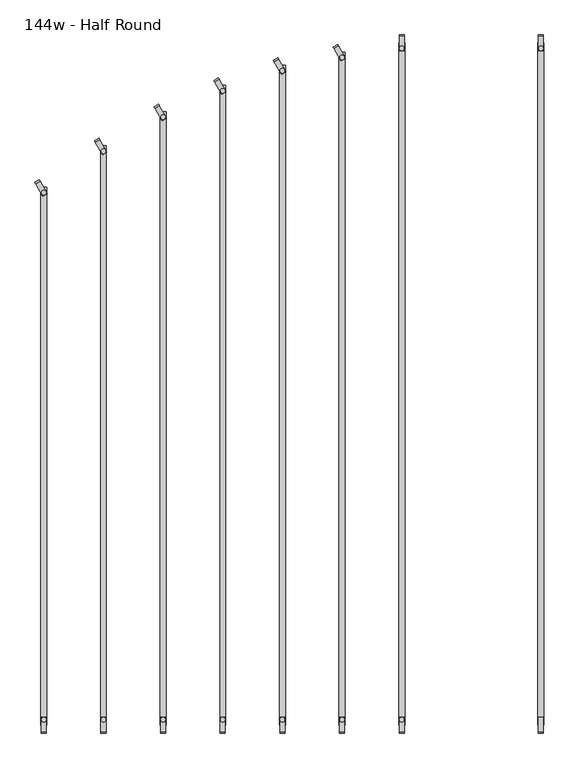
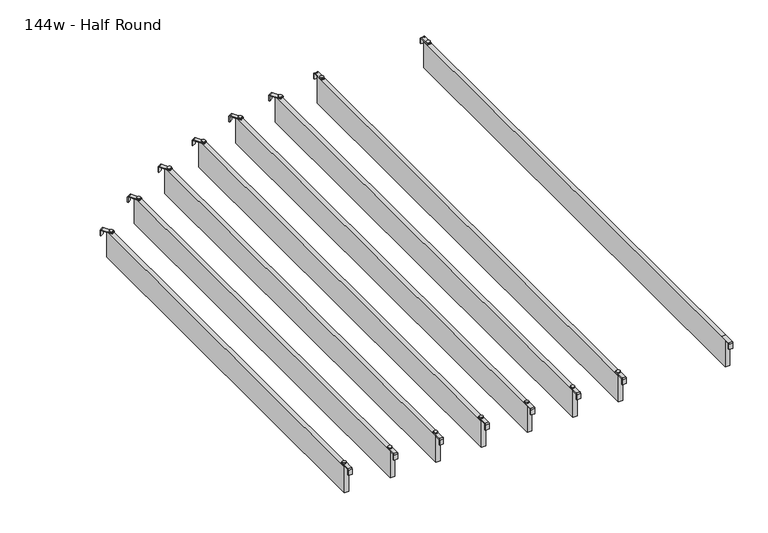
"""IFC4 building model written with IfcOpenShell, lengths in millimetres: furniture geometry, Haworth_Pergola_Ceiling_Slat_Radial : 144w - Half Round."""

from ifc_helpers import new_model, si_unit, point, frame, frame_2d, origin, place, context, project, spatial, polyline, circle_curve, trimmed, segment, composite_curve, outline, extrude, source, transform, mapped, element, save


def furniture_144w_half_round_812f437a(model_context):
    return source(origin(), model_context, "Body", "SweptSolid", [
        extrude(outline(composite_curve([segment(trimmed(circle_curve(frame_2d((215.9, -505.3424)), 5.9838099), [point((215.9, -511.3262099))], [point((215.9, -499.3585901))], False, "CARTESIAN"), True, "CONTINUOUS"), segment(trimmed(circle_curve(frame_2d((215.9, -505.3424)), 5.9838099), [point((215.9, -499.3585901))], [point((215.9, -511.3262099))], False, "CARTESIAN"), True, "CONTINUOUS")], self_intersect=False)), frame((0.0, 0.0, 2440.9329992), z_axis=(0.0, 0.0, 1.0), x_axis=(1.0, 0.0, 0.0)), (0.0, 0.0, 1.0), 3.4400008),
        extrude(outline(composite_curve([segment(polyline([(-2253.0946, 2419.2231711), (-2253.0946, 2437.2499992)]), True, "CONTINUOUS"), segment(trimmed(circle_curve(frame_2d((-2249.4116, 2437.2499992)), 3.683), [point((-2253.0946, 2437.2499992))], [point((-2249.4116, 2440.9329992))], False, "CARTESIAN"), True, "CONTINUOUS"), segment(polyline([(-2249.4116, 2440.9329992), (-2212.4346, 2440.9329992), (-2212.4346, 2438.2729997), (-2249.4251568, 2438.2729997)]), True, "CONTINUOUS"), segment(trimmed(circle_curve(frame_2d((-2249.4251568, 2437.2635571)), 1.0094425), [point((-2249.4251568, 2438.2729997))], [point((-2250.4345993, 2437.2635571))], True, "CARTESIAN"), True, "CONTINUOUS"), segment(polyline([(-2250.4345993, 2437.2635571), (-2250.4345993, 2419.2231711), (-2253.0946, 2419.2231711)]), True, "CONTINUOUS")], self_intersect=False)), frame((209.4069997, 0.0, 0.0), z_axis=(1.0, 0.0, 0.0), x_axis=(0.0, 1.0, 0.0)), (0.0, 0.0, 1.0), 13.0),
        extrude(outline(composite_curve([segment(polyline([(-471.1824, 2419.2231711), (-473.8424007, 2419.2231711), (-473.8424007, 2437.2635571)]), True, "CONTINUOUS"), segment(trimmed(circle_curve(frame_2d((-474.8518432, 2437.2635571)), 1.0094425), [point((-473.8424007, 2437.2635571))], [point((-474.8518432, 2438.2729997))], True, "CARTESIAN"), True, "CONTINUOUS"), segment(polyline([(-474.8518432, 2438.2729997), (-511.8424, 2438.2729997), (-511.8424, 2440.9329992), (-474.8654, 2440.9329992)]), True, "CONTINUOUS"), segment(trimmed(circle_curve(frame_2d((-474.8654, 2437.2499992)), 3.683), [point((-474.8654, 2440.9329992))], [point((-471.1824, 2437.2499992))], False, "CARTESIAN"), True, "CONTINUOUS"), segment(polyline([(-471.1824, 2437.2499992), (-471.1824, 2419.2231711)]), True, "CONTINUOUS")], self_intersect=False)), frame((209.4069997, 0.0, 0.0), z_axis=(1.0, 0.0, 0.0), x_axis=(0.0, 1.0, 0.0)), (0.0, 0.0, 1.0), 13.0),
        extrude(outline(polyline([(208.407, -491.6424), (223.393, -491.6424), (223.393, -2232.6346), (208.407, -2232.6346), (208.407, -491.6424)])), frame((0.0, 0.0, 2346.198), z_axis=(0.0, 0.0, 1.0), x_axis=(1.0, 0.0, 0.0)), (0.0, 0.0, 1.0), 92.202),
        extrude(outline(composite_curve([segment(trimmed(circle_curve(frame_2d((-139.7, -2218.9346)), 5.9838099), [point((-139.7, -2212.9507901))], [point((-139.7, -2224.9184099))], False, "CARTESIAN"), True, "CONTINUOUS"), segment(trimmed(circle_curve(frame_2d((-139.7, -2218.9346)), 5.9838099), [point((-139.7, -2224.9184099))], [point((-139.7, -2212.9507901))], False, "CARTESIAN"), True, "CONTINUOUS")], self_intersect=False)), frame((0.0, 0.0, 2440.9329992), z_axis=(0.0, 0.0, 1.0), x_axis=(1.0, 0.0, 0.0)), (0.0, 0.0, 1.0), 3.4400008),
        extrude(outline(composite_curve([segment(trimmed(circle_curve(frame_2d((-139.7, -505.3424)), 5.9838099), [point((-139.7, -511.3262099))], [point((-139.7, -499.3585901))], False, "CARTESIAN"), True, "CONTINUOUS"), segment(trimmed(circle_curve(frame_2d((-139.7, -505.3424)), 5.9838099), [point((-139.7, -499.3585901))], [point((-139.7, -511.3262099))], False, "CARTESIAN"), True, "CONTINUOUS")], self_intersect=False)), frame((0.0, 0.0, 2440.9329992), z_axis=(0.0, 0.0, 1.0), x_axis=(1.0, 0.0, 0.0)), (0.0, 0.0, 1.0), 3.4400008),
        extrude(outline(composite_curve([segment(polyline([(-2253.0946, 2419.2231711), (-2253.0946, 2437.2499992)]), True, "CONTINUOUS"), segment(trimmed(circle_curve(frame_2d((-2249.4116, 2437.2499992)), 3.683), [point((-2253.0946, 2437.2499992))], [point((-2249.4116, 2440.9329992))], False, "CARTESIAN"), True, "CONTINUOUS"), segment(polyline([(-2249.4116, 2440.9329992), (-2212.4346, 2440.9329992), (-2212.4346, 2438.2729997), (-2249.4251568, 2438.2729997)]), True, "CONTINUOUS"), segment(trimmed(circle_curve(frame_2d((-2249.4251568, 2437.2635571)), 1.0094425), [point((-2249.4251568, 2438.2729997))], [point((-2250.4345993, 2437.2635571))], True, "CARTESIAN"), True, "CONTINUOUS"), segment(polyline([(-2250.4345993, 2437.2635571), (-2250.4345993, 2419.2231711), (-2253.0946, 2419.2231711)]), True, "CONTINUOUS")], self_intersect=False)), frame((-146.1930003, 0.0, 0.0), z_axis=(1.0, 0.0, 0.0), x_axis=(0.0, 1.0, 0.0)), (0.0, 0.0, 1.0), 13.0),
        extrude(outline(composite_curve([segment(polyline([(-471.1824, 2419.2231711), (-473.8424007, 2419.2231711), (-473.8424007, 2437.2635571)]), True, "CONTINUOUS"), segment(trimmed(circle_curve(frame_2d((-474.8518432, 2437.2635571)), 1.0094425), [point((-473.8424007, 2437.2635571))], [point((-474.8518432, 2438.2729997))], True, "CARTESIAN"), True, "CONTINUOUS"), segment(polyline([(-474.8518432, 2438.2729997), (-511.8424, 2438.2729997), (-511.8424, 2440.9329992), (-474.8654, 2440.9329992)]), True, "CONTINUOUS"), segment(trimmed(circle_curve(frame_2d((-474.8654, 2437.2499992)), 3.683), [point((-474.8654, 2440.9329992))], [point((-471.1824, 2437.2499992))], False, "CARTESIAN"), True, "CONTINUOUS"), segment(polyline([(-471.1824, 2437.2499992), (-471.1824, 2419.2231711)]), True, "CONTINUOUS")], self_intersect=False)), frame((-146.1930003, 0.0, 0.0), z_axis=(1.0, 0.0, 0.0), x_axis=(0.0, 1.0, 0.0)), (0.0, 0.0, 1.0), 13.0),
        extrude(outline(polyline([(-147.193, -491.6424), (-132.207, -491.6424), (-132.207, -2232.6346), (-147.193, -2232.6346), (-147.193, -491.6424)])), frame((0.0, 0.0, 2346.198), z_axis=(0.0, 0.0, 1.0), x_axis=(1.0, 0.0, 0.0)), (0.0, 0.0, 1.0), 92.202),
        extrude(outline(composite_curve([segment(trimmed(circle_curve(frame_2d((-1.0160034, 0.0159996)), 1.016), [point((-1.0160034, -1.0000004))], [point((-3.4e-06, 0.0159996))], True, "CARTESIAN"), True, "CONTINUOUS"), segment(polyline([(-3.4e-06, 0.0159996), (-3.4e-06, 36.7785168), (2.5329992, 36.7785168), (2.5329992, 0.022999)]), True, "CONTINUOUS"), segment(trimmed(circle_curve(frame_2d((-1.1500008, 0.022999)), 3.683), [point((2.5329992, 0.022999))], [point((-1.1500008, -3.660001))], False, "CARTESIAN"), True, "CONTINUOUS"), segment(polyline([(-1.1500008, -3.660001), (-19.0498319, -3.660001), (-19.0498319, -1.0000004), (-1.0160034, -1.0000004)]), True, "CONTINUOUS")], self_intersect=False)), frame((-312.9791648, -505.5720262, 2438.4), z_axis=(0.8660254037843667, 0.5000000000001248, 0.0), x_axis=(0.0, 0.0, 1.0)), (0.0, 0.0, 1.0), 13.0000002),
        extrude(outline(composite_curve([segment(trimmed(circle_curve(frame_2d((-292.1, -2218.9346)), 5.9838099), [point((-292.1, -2212.9507901))], [point((-292.1, -2224.9184099))], False, "CARTESIAN"), True, "CONTINUOUS"), segment(trimmed(circle_curve(frame_2d((-292.1, -2218.9346)), 5.9838099), [point((-292.1, -2224.9184099))], [point((-292.1, -2212.9507901))], False, "CARTESIAN"), True, "CONTINUOUS")], self_intersect=False)), frame((0.0, 0.0, 2440.9329992), z_axis=(0.0, 0.0, 1.0), x_axis=(1.0, 0.0, 0.0)), (0.0, 0.0, 1.0), 3.4400008),
        extrude(outline(composite_curve([segment(trimmed(circle_curve(frame_2d((-292.1, -528.7358)), 5.9838099), [point((-292.1, -534.7196099))], [point((-292.1, -522.7519901))], False, "CARTESIAN"), True, "CONTINUOUS"), segment(trimmed(circle_curve(frame_2d((-292.1, -528.7358)), 5.9838099), [point((-292.1, -522.7519901))], [point((-292.1, -534.7196099))], False, "CARTESIAN"), True, "CONTINUOUS")], self_intersect=False)), frame((0.0, 0.0, 2440.9329992), z_axis=(0.0, 0.0, 1.0), x_axis=(1.0, 0.0, 0.0)), (0.0, 0.0, 1.0), 3.4400008),
        extrude(outline(composite_curve([segment(polyline([(-2253.0946, 2419.2231711), (-2253.0946, 2437.2499992)]), True, "CONTINUOUS"), segment(trimmed(circle_curve(frame_2d((-2249.4116, 2437.2499992)), 3.683), [point((-2253.0946, 2437.2499992))], [point((-2249.4116, 2440.9329992))], False, "CARTESIAN"), True, "CONTINUOUS"), segment(polyline([(-2249.4116, 2440.9329992), (-2212.4346, 2440.9329992), (-2212.4346, 2438.2729997), (-2249.4251568, 2438.2729997)]), True, "CONTINUOUS"), segment(trimmed(circle_curve(frame_2d((-2249.4251568, 2437.2635571)), 1.0094425), [point((-2249.4251568, 2438.2729997))], [point((-2250.4345993, 2437.2635571))], True, "CARTESIAN"), True, "CONTINUOUS"), segment(polyline([(-2250.4345993, 2437.2635571), (-2250.4345993, 2419.2231711), (-2253.0946, 2419.2231711)]), True, "CONTINUOUS")], self_intersect=False)), frame((-298.5930003, 0.0, 0.0), z_axis=(1.0, 0.0, 0.0), x_axis=(0.0, 1.0, 0.0)), (0.0, 0.0, 1.0), 13.0),
        extrude(outline(polyline([(-299.593, -515.0358), (-284.607, -515.0358), (-284.607, -2232.6346), (-299.593, -2232.6346), (-299.593, -515.0358)])), frame((0.0, 0.0, 2346.198), z_axis=(0.0, 0.0, 1.0), x_axis=(1.0, 0.0, 0.0)), (0.0, 0.0, 1.0), 92.202),
        extrude(outline(composite_curve([segment(trimmed(circle_curve(frame_2d((-1.0160034, 0.0159996)), 1.016), [point((-1.0160034, -1.0000004))], [point((-3.4e-06, 0.0159996))], True, "CARTESIAN"), True, "CONTINUOUS"), segment(polyline([(-3.4e-06, 0.0159996), (-3.4e-06, 36.7785168), (2.5329992, 36.7785168), (2.5329992, 0.022999)]), True, "CONTINUOUS"), segment(trimmed(circle_curve(frame_2d((-1.1500008, 0.022999)), 3.683), [point((2.5329992, 0.022999))], [point((-1.1500008, -3.660001))], False, "CARTESIAN"), True, "CONTINUOUS"), segment(polyline([(-1.1500008, -3.660001), (-19.0498319, -3.660001), (-19.0498319, -1.0000004), (-1.0160034, -1.0000004)]), True, "CONTINUOUS")], self_intersect=False)), frame((-465.3791648, -539.4048262, 2438.4), z_axis=(0.8660254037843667, 0.5000000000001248, 0.0), x_axis=(0.0, 0.0, 1.0)), (0.0, 0.0, 1.0), 13.0000002),
        extrude(outline(composite_curve([segment(trimmed(circle_curve(frame_2d((-444.5, -2218.9346)), 5.9838099), [point((-444.5, -2212.9507901))], [point((-444.5, -2224.9184099))], False, "CARTESIAN"), True, "CONTINUOUS"), segment(trimmed(circle_curve(frame_2d((-444.5, -2218.9346)), 5.9838099), [point((-444.5, -2224.9184099))], [point((-444.5, -2212.9507901))], False, "CARTESIAN"), True, "CONTINUOUS")], self_intersect=False)), frame((0.0, 0.0, 2440.9329992), z_axis=(0.0, 0.0, 1.0), x_axis=(1.0, 0.0, 0.0)), (0.0, 0.0, 1.0), 3.4400008),
        extrude(outline(composite_curve([segment(trimmed(circle_curve(frame_2d((-444.5, -562.5686)), 5.9838099), [point((-444.5, -568.5524099))], [point((-444.5, -556.5847901))], False, "CARTESIAN"), True, "CONTINUOUS"), segment(trimmed(circle_curve(frame_2d((-444.5, -562.5686)), 5.9838099), [point((-444.5, -556.5847901))], [point((-444.5, -568.5524099))], False, "CARTESIAN"), True, "CONTINUOUS")], self_intersect=False)), frame((0.0, 0.0, 2440.9329992), z_axis=(0.0, 0.0, 1.0), x_axis=(1.0, 0.0, 0.0)), (0.0, 0.0, 1.0), 3.4400008),
        extrude(outline(composite_curve([segment(polyline([(-2253.0946, 2419.2231711), (-2253.0946, 2437.2499992)]), True, "CONTINUOUS"), segment(trimmed(circle_curve(frame_2d((-2249.4116, 2437.2499992)), 3.683), [point((-2253.0946, 2437.2499992))], [point((-2249.4116, 2440.9329992))], False, "CARTESIAN"), True, "CONTINUOUS"), segment(polyline([(-2249.4116, 2440.9329992), (-2212.4346, 2440.9329992), (-2212.4346, 2438.2729997), (-2249.4251568, 2438.2729997)]), True, "CONTINUOUS"), segment(trimmed(circle_curve(frame_2d((-2249.4251568, 2437.2635571)), 1.0094425), [point((-2249.4251568, 2438.2729997))], [point((-2250.4345993, 2437.2635571))], True, "CARTESIAN"), True, "CONTINUOUS"), segment(polyline([(-2250.4345993, 2437.2635571), (-2250.4345993, 2419.2231711), (-2253.0946, 2419.2231711)]), True, "CONTINUOUS")], self_intersect=False)), frame((-450.9930003, 0.0, 0.0), z_axis=(1.0, 0.0, 0.0), x_axis=(0.0, 1.0, 0.0)), (0.0, 0.0, 1.0), 13.0),
        extrude(outline(polyline([(-451.993, -548.8686), (-437.007, -548.8686), (-437.007, -2232.6346), (-451.993, -2232.6346), (-451.993, -548.8686)])), frame((0.0, 0.0, 2346.198), z_axis=(0.0, 0.0, 1.0), x_axis=(1.0, 0.0, 0.0)), (0.0, 0.0, 1.0), 92.202),
        extrude(outline(composite_curve([segment(trimmed(circle_curve(frame_2d((-1.0160034, 0.0159996)), 1.016), [point((-1.0160034, -1.0000004))], [point((-3.4e-06, 0.0159996))], True, "CARTESIAN"), True, "CONTINUOUS"), segment(polyline([(-3.4e-06, 0.0159996), (-3.4e-06, 36.7785168), (2.5329992, 36.7785168), (2.5329992, 0.022999)]), True, "CONTINUOUS"), segment(trimmed(circle_curve(frame_2d((-1.1500008, 0.022999)), 3.683), [point((2.5329992, 0.022999))], [point((-1.1500008, -3.660001))], False, "CARTESIAN"), True, "CONTINUOUS"), segment(polyline([(-1.1500008, -3.660001), (-19.0498319, -3.660001), (-19.0498319, -1.0000004), (-1.0160034, -1.0000004)]), True, "CONTINUOUS")], self_intersect=False)), frame((-617.7791648, -590.7890262, 2438.4), z_axis=(0.8660254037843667, 0.5000000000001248, 0.0), x_axis=(0.0, 0.0, 1.0)), (0.0, 0.0, 1.0), 13.0000002),
        extrude(outline(composite_curve([segment(trimmed(circle_curve(frame_2d((-596.9, -2218.9346)), 5.9838099), [point((-596.9, -2212.9507901))], [point((-596.9, -2224.9184099))], False, "CARTESIAN"), True, "CONTINUOUS"), segment(trimmed(circle_curve(frame_2d((-596.9, -2218.9346)), 5.9838099), [point((-596.9, -2224.9184099))], [point((-596.9, -2212.9507901))], False, "CARTESIAN"), True, "CONTINUOUS")], self_intersect=False)), frame((0.0, 0.0, 2440.9329992), z_axis=(0.0, 0.0, 1.0), x_axis=(1.0, 0.0, 0.0)), (0.0, 0.0, 1.0), 3.4400008),
        extrude(outline(composite_curve([segment(trimmed(circle_curve(frame_2d((-596.9, -613.9528)), 5.9838099), [point((-596.9, -619.9366099))], [point((-596.9, -607.9689901))], False, "CARTESIAN"), True, "CONTINUOUS"), segment(trimmed(circle_curve(frame_2d((-596.9, -613.9528)), 5.9838099), [point((-596.9, -607.9689901))], [point((-596.9, -619.9366099))], False, "CARTESIAN"), True, "CONTINUOUS")], self_intersect=False)), frame((0.0, 0.0, 2440.9329992), z_axis=(0.0, 0.0, 1.0), x_axis=(1.0, 0.0, 0.0)), (0.0, 0.0, 1.0), 3.4400008),
        extrude(outline(composite_curve([segment(polyline([(-2253.0946, 2419.2231711), (-2253.0946, 2437.2499992)]), True, "CONTINUOUS"), segment(trimmed(circle_curve(frame_2d((-2249.4116, 2437.2499992)), 3.683), [point((-2253.0946, 2437.2499992))], [point((-2249.4116, 2440.9329992))], False, "CARTESIAN"), True, "CONTINUOUS"), segment(polyline([(-2249.4116, 2440.9329992), (-2212.4346, 2440.9329992), (-2212.4346, 2438.2729997), (-2249.4251568, 2438.2729997)]), True, "CONTINUOUS"), segment(trimmed(circle_curve(frame_2d((-2249.4251568, 2437.2635571)), 1.0094425), [point((-2249.4251568, 2438.2729997))], [point((-2250.4345993, 2437.2635571))], True, "CARTESIAN"), True, "CONTINUOUS"), segment(polyline([(-2250.4345993, 2437.2635571), (-2250.4345993, 2419.2231711), (-2253.0946, 2419.2231711)]), True, "CONTINUOUS")], self_intersect=False)), frame((-603.3930003, 0.0, 0.0), z_axis=(1.0, 0.0, 0.0), x_axis=(0.0, 1.0, 0.0)), (0.0, 0.0, 1.0), 13.0),
        extrude(outline(polyline([(-604.393, -600.2528), (-589.407, -600.2528), (-589.407, -2232.6346), (-604.393, -2232.6346), (-604.393, -600.2528)])), frame((0.0, 0.0, 2346.198), z_axis=(0.0, 0.0, 1.0), x_axis=(1.0, 0.0, 0.0)), (0.0, 0.0, 1.0), 92.202),
        extrude(outline(composite_curve([segment(trimmed(circle_curve(frame_2d((-1.0160034, 0.0159996)), 1.016), [point((-1.0160034, -1.0000004))], [point((-3.4e-06, 0.0159996))], True, "CARTESIAN"), True, "CONTINUOUS"), segment(polyline([(-3.4e-06, 0.0159996), (-3.4e-06, 36.7785168), (2.5329992, 36.7785168), (2.5329992, 0.022999)]), True, "CONTINUOUS"), segment(trimmed(circle_curve(frame_2d((-1.1500008, 0.022999)), 3.683), [point((2.5329992, 0.022999))], [point((-1.1500008, -3.660001))], False, "CARTESIAN"), True, "CONTINUOUS"), segment(polyline([(-1.1500008, -3.660001), (-19.0498319, -3.660001), (-19.0498319, -1.0000004), (-1.0160034, -1.0000004)]), True, "CONTINUOUS")], self_intersect=False)), frame((-770.1791648, -657.9466262, 2438.4), z_axis=(0.8660254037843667, 0.5000000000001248, 0.0), x_axis=(0.0, 0.0, 1.0)), (0.0, 0.0, 1.0), 13.0000002),
        extrude(outline(composite_curve([segment(trimmed(circle_curve(frame_2d((-749.3, -2218.9346)), 5.9838099), [point((-749.3, -2212.9507901))], [point((-749.3, -2224.9184099))], False, "CARTESIAN"), True, "CONTINUOUS"), segment(trimmed(circle_curve(frame_2d((-749.3, -2218.9346)), 5.9838099), [point((-749.3, -2224.9184099))], [point((-749.3, -2212.9507901))], False, "CARTESIAN"), True, "CONTINUOUS")], self_intersect=False)), frame((0.0, 0.0, 2440.9329992), z_axis=(0.0, 0.0, 1.0), x_axis=(1.0, 0.0, 0.0)), (0.0, 0.0, 1.0), 3.4400008),
        extrude(outline(composite_curve([segment(trimmed(circle_curve(frame_2d((-749.3, -681.1104)), 5.9838099), [point((-749.3, -687.0942099))], [point((-749.3, -675.1265901))], False, "CARTESIAN"), True, "CONTINUOUS"), segment(trimmed(circle_curve(frame_2d((-749.3, -681.1104)), 5.9838099), [point((-749.3, -675.1265901))], [point((-749.3, -687.0942099))], False, "CARTESIAN"), True, "CONTINUOUS")], self_intersect=False)), frame((0.0, 0.0, 2440.9329992), z_axis=(0.0, 0.0, 1.0), x_axis=(1.0, 0.0, 0.0)), (0.0, 0.0, 1.0), 3.4400008),
        extrude(outline(composite_curve([segment(polyline([(-2253.0946, 2419.2231711), (-2253.0946, 2437.2499992)]), True, "CONTINUOUS"), segment(trimmed(circle_curve(frame_2d((-2249.4116, 2437.2499992)), 3.683), [point((-2253.0946, 2437.2499992))], [point((-2249.4116, 2440.9329992))], False, "CARTESIAN"), True, "CONTINUOUS"), segment(polyline([(-2249.4116, 2440.9329992), (-2212.4346, 2440.9329992), (-2212.4346, 2438.2729997), (-2249.4251568, 2438.2729997)]), True, "CONTINUOUS"), segment(trimmed(circle_curve(frame_2d((-2249.4251568, 2437.2635571)), 1.0094425), [point((-2249.4251568, 2438.2729997))], [point((-2250.4345993, 2437.2635571))], True, "CARTESIAN"), True, "CONTINUOUS"), segment(polyline([(-2250.4345993, 2437.2635571), (-2250.4345993, 2419.2231711), (-2253.0946, 2419.2231711)]), True, "CONTINUOUS")], self_intersect=False)), frame((-755.7930003, 0.0, 0.0), z_axis=(1.0, 0.0, 0.0), x_axis=(0.0, 1.0, 0.0)), (0.0, 0.0, 1.0), 13.0),
        extrude(outline(polyline([(-756.793, -667.4104), (-741.807, -667.4104), (-741.807, -2232.6346), (-756.793, -2232.6346), (-756.793, -667.4104)])), frame((0.0, 0.0, 2346.198), z_axis=(0.0, 0.0, 1.0), x_axis=(1.0, 0.0, 0.0)), (0.0, 0.0, 1.0), 92.202),
        extrude(outline(composite_curve([segment(trimmed(circle_curve(frame_2d((-1.0160034, 0.0159996)), 1.016), [point((-1.0160034, -1.0000004))], [point((-3.4e-06, 0.0159996))], True, "CARTESIAN"), True, "CONTINUOUS"), segment(polyline([(-3.4e-06, 0.0159996), (-3.4e-06, 36.7785168), (2.5329992, 36.7785168), (2.5329992, 0.022999)]), True, "CONTINUOUS"), segment(trimmed(circle_curve(frame_2d((-1.1500008, 0.022999)), 3.683), [point((2.5329992, 0.022999))], [point((-1.1500008, -3.660001))], False, "CARTESIAN"), True, "CONTINUOUS"), segment(polyline([(-1.1500008, -3.660001), (-19.0498319, -3.660001), (-19.0498319, -1.0000004), (-1.0160034, -1.0000004)]), True, "CONTINUOUS")], self_intersect=False)), frame((-922.5791648, -744.8400262, 2438.4), z_axis=(0.8660254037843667, 0.5000000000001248, 0.0), x_axis=(0.0, 0.0, 1.0)), (0.0, 0.0, 1.0), 13.0000002),
        extrude(outline(composite_curve([segment(trimmed(circle_curve(frame_2d((-901.7, -2218.9346)), 5.9838099), [point((-901.7, -2212.9507901))], [point((-901.7, -2224.9184099))], False, "CARTESIAN"), True, "CONTINUOUS"), segment(trimmed(circle_curve(frame_2d((-901.7, -2218.9346)), 5.9838099), [point((-901.7, -2224.9184099))], [point((-901.7, -2212.9507901))], False, "CARTESIAN"), True, "CONTINUOUS")], self_intersect=False)), frame((0.0, 0.0, 2440.9329992), z_axis=(0.0, 0.0, 1.0), x_axis=(1.0, 0.0, 0.0)), (0.0, 0.0, 1.0), 3.4400008),
        extrude(outline(composite_curve([segment(trimmed(circle_curve(frame_2d((-901.7, -768.0038)), 5.9838099), [point((-901.7, -773.9876099))], [point((-901.7, -762.0199901))], False, "CARTESIAN"), True, "CONTINUOUS"), segment(trimmed(circle_curve(frame_2d((-901.7, -768.0038)), 5.9838099), [point((-901.7, -762.0199901))], [point((-901.7, -773.9876099))], False, "CARTESIAN"), True, "CONTINUOUS")], self_intersect=False)), frame((0.0, 0.0, 2440.9329992), z_axis=(0.0, 0.0, 1.0), x_axis=(1.0, 0.0, 0.0)), (0.0, 0.0, 1.0), 3.4400008),
        extrude(outline(composite_curve([segment(polyline([(-2253.0946, 2419.2231711), (-2253.0946, 2437.2499992)]), True, "CONTINUOUS"), segment(trimmed(circle_curve(frame_2d((-2249.4116, 2437.2499992)), 3.683), [point((-2253.0946, 2437.2499992))], [point((-2249.4116, 2440.9329992))], False, "CARTESIAN"), True, "CONTINUOUS"), segment(polyline([(-2249.4116, 2440.9329992), (-2212.4346, 2440.9329992), (-2212.4346, 2438.2729997), (-2249.4251568, 2438.2729997)]), True, "CONTINUOUS"), segment(trimmed(circle_curve(frame_2d((-2249.4251568, 2437.2635571)), 1.0094425), [point((-2249.4251568, 2438.2729997))], [point((-2250.4345993, 2437.2635571))], True, "CARTESIAN"), True, "CONTINUOUS"), segment(polyline([(-2250.4345993, 2437.2635571), (-2250.4345993, 2419.2231711), (-2253.0946, 2419.2231711)]), True, "CONTINUOUS")], self_intersect=False)), frame((-908.1930003, 0.0, 0.0), z_axis=(1.0, 0.0, 0.0), x_axis=(0.0, 1.0, 0.0)), (0.0, 0.0, 1.0), 13.0),
        extrude(outline(polyline([(-909.193, -754.3038), (-894.207, -754.3038), (-894.207, -2232.6346), (-909.193, -2232.6346), (-909.193, -754.3038)])), frame((0.0, 0.0, 2346.198), z_axis=(0.0, 0.0, 1.0), x_axis=(1.0, 0.0, 0.0)), (0.0, 0.0, 1.0), 92.202),
        extrude(outline(composite_curve([segment(trimmed(circle_curve(frame_2d((-1.0160034, 0.0159996)), 1.016), [point((-1.0160034, -1.0000004))], [point((-3.4e-06, 0.0159996))], True, "CARTESIAN"), True, "CONTINUOUS"), segment(polyline([(-3.4e-06, 0.0159996), (-3.4e-06, 36.7785168), (2.5329992, 36.7785168), (2.5329992, 0.022999)]), True, "CONTINUOUS"), segment(trimmed(circle_curve(frame_2d((-1.1500008, 0.022999)), 3.683), [point((2.5329992, 0.022999))], [point((-1.1500008, -3.660001))], False, "CARTESIAN"), True, "CONTINUOUS"), segment(polyline([(-1.1500008, -3.660001), (-19.0498319, -3.660001), (-19.0498319, -1.0000004), (-1.0160034, -1.0000004)]), True, "CONTINUOUS")], self_intersect=False)), frame((-1074.9791648, -850.6564262, 2438.4), z_axis=(0.8660254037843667, 0.5000000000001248, 0.0), x_axis=(0.0, 0.0, 1.0)), (0.0, 0.0, 1.0), 13.0000002),
        extrude(outline(composite_curve([segment(trimmed(circle_curve(frame_2d((-1054.1, -2218.9346)), 5.9838099), [point((-1054.1, -2212.9507901))], [point((-1054.1, -2224.9184099))], False, "CARTESIAN"), True, "CONTINUOUS"), segment(trimmed(circle_curve(frame_2d((-1054.1, -2218.9346)), 5.9838099), [point((-1054.1, -2224.9184099))], [point((-1054.1, -2212.9507901))], False, "CARTESIAN"), True, "CONTINUOUS")], self_intersect=False)), frame((0.0, 0.0, 2440.9329992), z_axis=(0.0, 0.0, 1.0), x_axis=(1.0, 0.0, 0.0)), (0.0, 0.0, 1.0), 3.4400008),
        extrude(outline(composite_curve([segment(trimmed(circle_curve(frame_2d((-1054.1, -873.8202)), 5.9838099), [point((-1054.1, -879.8040099))], [point((-1054.1, -867.8363901))], False, "CARTESIAN"), True, "CONTINUOUS"), segment(trimmed(circle_curve(frame_2d((-1054.1, -873.8202)), 5.9838099), [point((-1054.1, -867.8363901))], [point((-1054.1, -879.8040099))], False, "CARTESIAN"), True, "CONTINUOUS")], self_intersect=False)), frame((0.0, 0.0, 2440.9329992), z_axis=(0.0, 0.0, 1.0), x_axis=(1.0, 0.0, 0.0)), (0.0, 0.0, 1.0), 3.4400008),
        extrude(outline(composite_curve([segment(polyline([(-2253.0946, 2419.2231711), (-2253.0946, 2437.2499992)]), True, "CONTINUOUS"), segment(trimmed(circle_curve(frame_2d((-2249.4116, 2437.2499992)), 3.683), [point((-2253.0946, 2437.2499992))], [point((-2249.4116, 2440.9329992))], False, "CARTESIAN"), True, "CONTINUOUS"), segment(polyline([(-2249.4116, 2440.9329992), (-2212.4346, 2440.9329992), (-2212.4346, 2438.2729997), (-2249.4251568, 2438.2729997)]), True, "CONTINUOUS"), segment(trimmed(circle_curve(frame_2d((-2249.4251568, 2437.2635571)), 1.0094425), [point((-2249.4251568, 2438.2729997))], [point((-2250.4345993, 2437.2635571))], True, "CARTESIAN"), True, "CONTINUOUS"), segment(polyline([(-2250.4345993, 2437.2635571), (-2250.4345993, 2419.2231711), (-2253.0946, 2419.2231711)]), True, "CONTINUOUS")], self_intersect=False)), frame((-1060.5930003, 0.0, 0.0), z_axis=(1.0, 0.0, 0.0), x_axis=(0.0, 1.0, 0.0)), (0.0, 0.0, 1.0), 13.0),
        extrude(outline(polyline([(-1061.593, -860.1202), (-1046.607, -860.1202), (-1046.607, -2232.6346), (-1061.593, -2232.6346), (-1061.593, -860.1202)])), frame((0.0, 0.0, 2346.198), z_axis=(0.0, 0.0, 1.0), x_axis=(1.0, 0.0, 0.0)), (0.0, 0.0, 1.0), 92.202),
    ])


if __name__ == "__main__":
    model = new_model("IFC4")
    model_context = context("Model", 3, world=origin())
    ifc_project = project(units=[si_unit("LENGTHUNIT", "METRE", prefix="MILLI")], contexts=[model_context])
    site = spatial("IfcSite", under=ifc_project)
    building = spatial("IfcBuilding", under=site)
    placement = place(None, origin())
    furniture_144w_half_round_shape = furniture_144w_half_round_812f437a(model_context)
    element("IfcFurniture", 1, ObjectType="Haworth_Pergola_Ceiling_Slat_Radial : 144w - Half Round", at=placement, inside=building, context=model_context, shape_type="MappedRepresentation", body=[
        mapped(furniture_144w_half_round_shape, transform((0.0, 0.0, 0.0), x_axis=(1.0, 0.0, 0.0), y_axis=(0.0, 1.0, 0.0), z_axis=(0.0, 0.0, 1.0))),
    ])
    save(model, "model.ifc")
